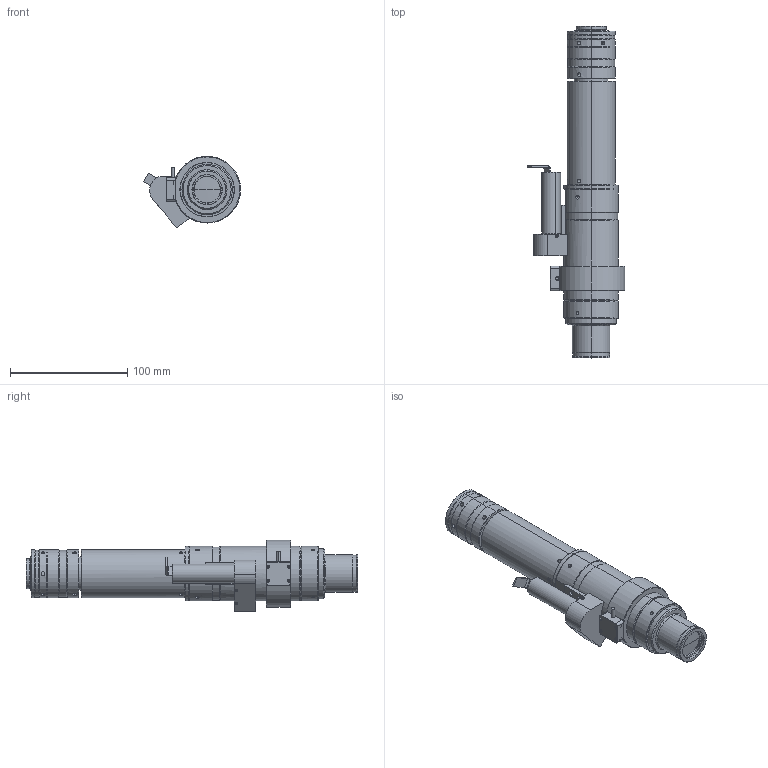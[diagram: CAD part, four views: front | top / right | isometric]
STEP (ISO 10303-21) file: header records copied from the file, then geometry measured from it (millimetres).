
FILE_DESCRIPTION (( 'STEP AP203' ), '1' );
FILE_NAME ('RK-PZ133(1X).STEP', '2023-09-07T12:20:13', ( 'Windows 蚚誧' ), ( 'Organization' ), 'SwSTEP 2.0', 'SolidWorks 2018', '' );
FILE_SCHEMA (( 'CONFIG_CONTROL_DESIGN' ));
Length unit declared in the file: millimetre
Products named in the file (1): RK-PZ133(1X)
Bounding box: 82.79 x 283.14 x 60.96 mm (x, y, z)
Volume: 197814.8 mm3; surface area: 113004.4 mm2
Topology: 13 solids, 13 shells, 796 faces, 1906 edges, 1182 vertices
Faces by surface type: cylinder 324, plane 242, cone 198, bspline 24, sphere 6, torus 2
Entity records: 27581 total; most frequent: CARTESIAN_POINT 8797, DIRECTION 3968, ORIENTED_EDGE 3768, EDGE_CURVE 1884, AXIS2_PLACEMENT_3D 1519, VERTEX_POINT 1182, EDGE_LOOP 976, VECTOR 930
